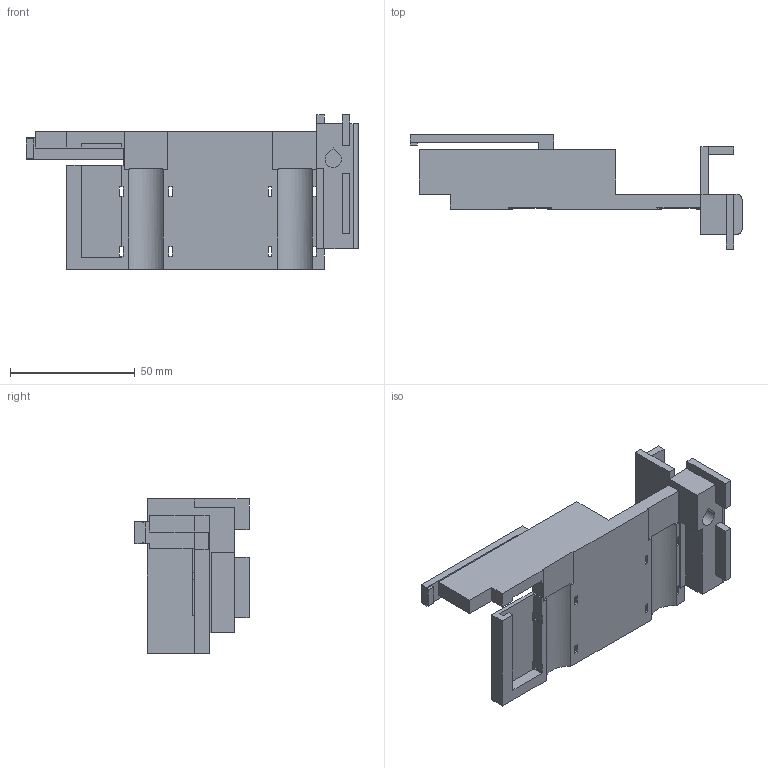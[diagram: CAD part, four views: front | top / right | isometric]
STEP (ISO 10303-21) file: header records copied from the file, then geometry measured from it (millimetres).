
FILE_DESCRIPTION(('Open CASCADE Model'),'2;1');
FILE_NAME('Open CASCADE Shape Model','1970-01-01T00:00:00',('Author'),( 'Open CASCADE'),'Open CASCADE STEP processor 7.8','Open CASCADE 7.8' ,'Unknown');
FILE_SCHEMA(('AUTOMOTIVE_DESIGN { 1 0 10303 214 1 1 1 1 }'));
Length unit declared in the file: millimetre
Products named in the file (2): Open CASCADE STEP translator 7.8 2; enclosure-tee-carrier-right
Assembly tree (1 placements, depth 2):
  Open CASCADE STEP translator 7.8 2
    enclosure-tee-carrier-right
Bounding box: 133.25 x 45.91 x 61.95 mm (x, y, z)
Volume: 59954 mm3; surface area: 26730.3 mm2
Topology: 1 solids, 1 shells, 128 faces, 380 edges, 253 vertices
Faces by surface type: plane 123, cylinder 5
Entity records: 9013 total; most frequent: CARTESIAN_POINT 1756, DIRECTION 1196, LINE 897, VECTOR 897, ORIENTED_EDGE 760, PCURVE 760, DEFINITIONAL_REPRESENTATION 760, EDGE_CURVE 380
